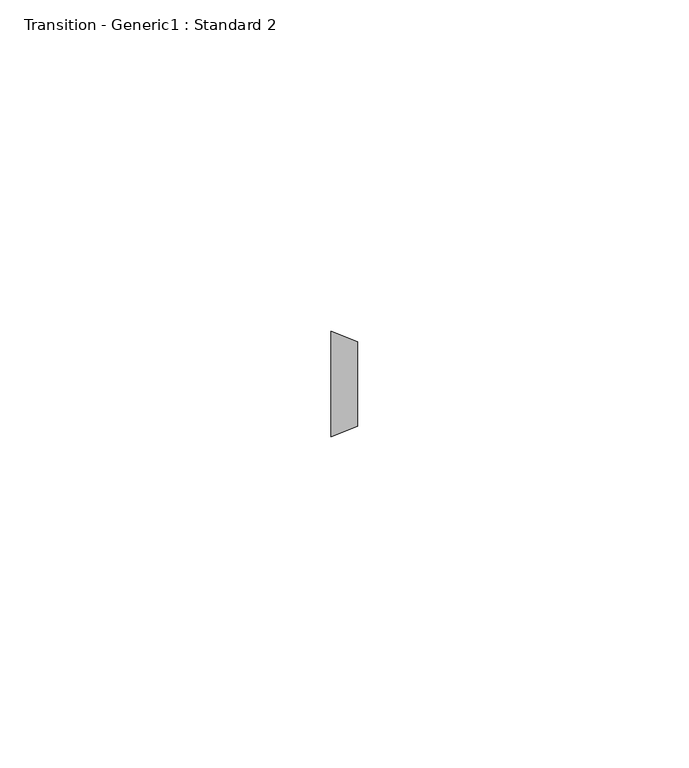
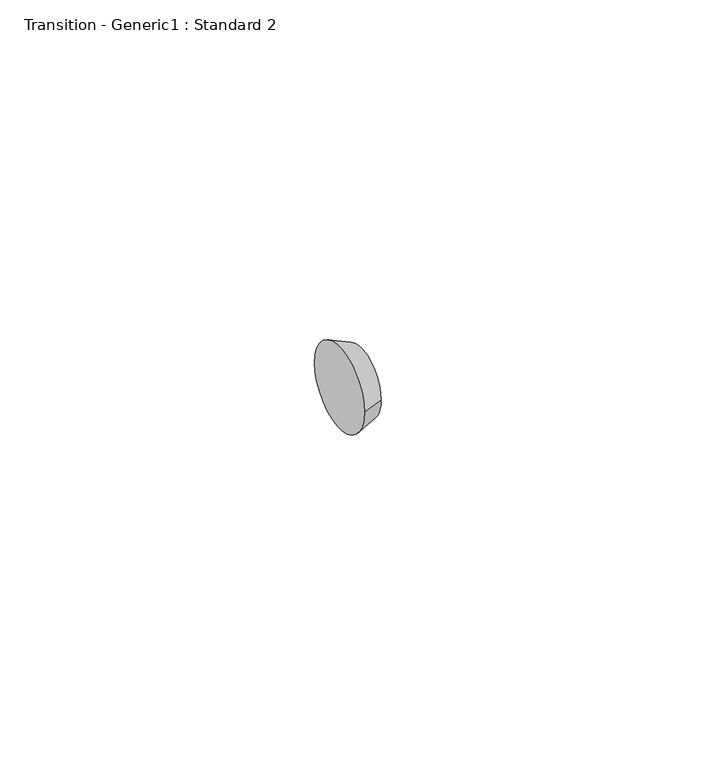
"""IFC4 building model written with IfcOpenShell, lengths in millimetres: pipe fitting geometry, Transition - Generic1 : Standard 2."""

from ifc_helpers import new_model, si_unit, frame, origin, place, context, project, spatial, polyline, circle_curve, source, transform, mapped, element, save
from ifc_brep_helpers import plane_surface, revolved_surface, advanced_brep


def transition_generic1_standard_2_162a224e(model_context):
    return source(origin(), model_context, "Body", "AdvancedBrep", [
        advanced_brep(
        [(3.96875, -6.35, 0.0), (3.96875, 6.35, 0.0), (0.0, -7.9375, 0.0), (0.0, 7.9375, 0.0)],
        [
            (0, 1, circle_curve(frame((3.96875, 0.0, 0.0), z_axis=(1.0, -1.0913936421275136e-12, 1.4029942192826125e-12), x_axis=(-1.0914178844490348e-12, -1.0, 0.0)), 6.35)),
            (1, 0, circle_curve(frame((3.96875, 0.0, 0.0), z_axis=(1.0, -1.0913936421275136e-12, 1.4029942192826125e-12), x_axis=(1.0914178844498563e-12, 1.0, 0.0)), 6.35)),
            (2, 3, circle_curve(frame((0.0, 0.0, 0.0), z_axis=(-1.0, 1.0913936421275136e-12, -1.4029942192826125e-12), x_axis=(1.0914178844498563e-12, 1.0, 0.0)), 7.9375)),
            (3, 2, circle_curve(frame((0.0, 0.0, 0.0), z_axis=(-1.0, 1.0913936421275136e-12, -1.4029942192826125e-12), x_axis=(-1.0914178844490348e-12, -1.0, 0.0)), 7.9375)),
            (3, 1),
            (0, 2),
        ],
        [
            plane_surface(frame((3.96875, 0.0, 0.0), z_axis=(1.0, 0.0, 0.0), x_axis=(0.0, 0.0, -1.0))),
            plane_surface(frame((0.0, 0.0, 0.0), z_axis=(-1.0, 0.0, 0.0), x_axis=(0.0, 0.0, -1.0))),
            revolved_surface(polyline([(3.9687500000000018, -6.35, 0.0), (-1.7326584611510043e-11, -7.9375000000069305, 0.0)]), (19.84375, 0.0, 0.0), (-1.0, 1.0913936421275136e-12, -1.4029942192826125e-12)),
            revolved_surface(polyline([(3.968750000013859, 6.3499999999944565, 0.0), (0.0, 7.9375, 0.0)]), (19.84375, 0.0, 0.0), (-1.0, 1.0913936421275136e-12, -1.4029942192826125e-12)),
        ],
        [
            (0, [[1, 2]]),
            (1, [[3, 4]]),
            (2, [[-4, 5, -1, 6]]),
            (3, [[-3, -6, -2, -5]]),
        ],
    ),
    ])


if __name__ == "__main__":
    model = new_model("IFC4")
    model_context = context("Model", 3, world=origin())
    ifc_project = project(units=[si_unit("LENGTHUNIT", "METRE", prefix="MILLI")], contexts=[model_context])
    site = spatial("IfcSite", under=ifc_project)
    building = spatial("IfcBuilding", under=site)
    placement = place(None, origin())
    transition_generic1_standard_2_shape = transition_generic1_standard_2_162a224e(model_context)
    element("IfcPipeFitting", 1, ObjectType="Transition - Generic1 : Standard 2", at=placement, inside=building, context=model_context, shape_type="MappedRepresentation", body=[
        mapped(transition_generic1_standard_2_shape, transform((0.0, 0.0, 0.0), x_axis=(1.0, 0.0, 0.0), y_axis=(0.0, 1.0, 0.0), z_axis=(0.0, 0.0, 1.0))),
    ])
    save(model, "model.ifc")
